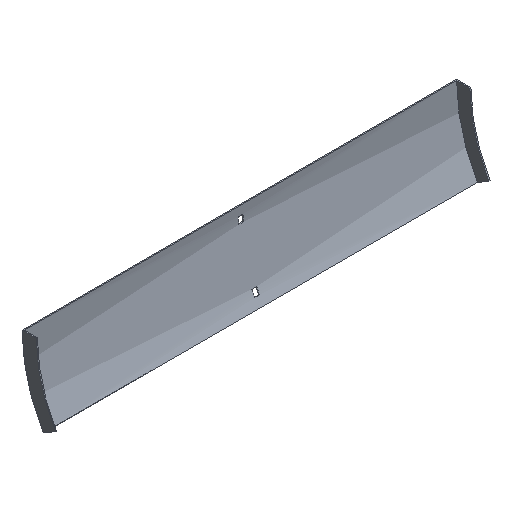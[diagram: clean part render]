
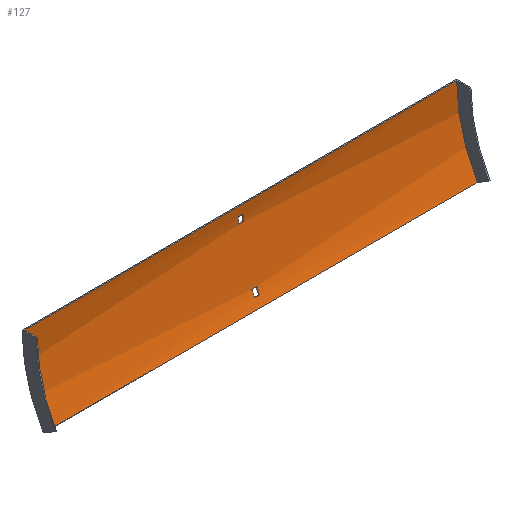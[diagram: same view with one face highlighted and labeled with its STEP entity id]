
A CAD part, isometric view. The second image highlights one B-rep face of the part: STEP entity #127.
In plain terms, the highlighted cylindrical face has radius 217.5 mm (diameter 435 mm), a partial arc.
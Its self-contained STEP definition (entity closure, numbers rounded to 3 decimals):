
#11 = FACE_BOUND ( 'NONE', #81, .T. ) ;
#12 = CARTESIAN_POINT ( 'NONE',  ( 303.5, -2.516, -21. ) ) ;
#18 = DIRECTION ( 'NONE',  ( 1., 0., 0. ) ) ;
#33 = FACE_OUTER_BOUND ( 'NONE', #307, .T. ) ;
#47 = ORIENTED_EDGE ( 'NONE', *, *, #195, .T. ) ;
#51 = AXIS2_PLACEMENT_3D ( 'NONE', #426, #562, #385 ) ;
#53 = AXIS2_PLACEMENT_3D ( 'NONE', #398, #311, #169 ) ;
#61 = CARTESIAN_POINT ( 'NONE',  ( 3.25, -1.831, -12. ) ) ;
#72 = EDGE_CURVE ( 'NONE', #533, #259, #322, .T. ) ;
#77 = CARTESIAN_POINT ( 'NONE',  ( -3.25, -2.516, -21. ) ) ;
#80 = CARTESIAN_POINT ( 'NONE',  ( 302., -1.5, 0. ) ) ;
#81 = EDGE_LOOP ( 'NONE', ( #445, #235, #324, #47 ) ) ;
#85 = CARTESIAN_POINT ( 'NONE',  ( 303.5, -24.926, -98.192 ) ) ;
#89 = LINE ( 'NONE', #85, #144 ) ;
#93 = ORIENTED_EDGE ( 'NONE', *, *, #491, .F. ) ;
#94 = CIRCLE ( 'NONE', #356, 217.5 ) ;
#107 = DIRECTION ( 'NONE',  ( 1., 0., 0. ) ) ;
#114 = CARTESIAN_POINT ( 'NONE',  ( -3.25, -24.926, -98.192 ) ) ;
#127 = ADVANCED_FACE ( 'NONE', ( #590, #33, #11 ), #288, .F. ) ;
#144 = VECTOR ( 'NONE', #508, 1000. ) ;
#159 = DIRECTION ( 'NONE',  ( 0., 0., -1. ) ) ;
#162 = LINE ( 'NONE', #407, #476 ) ;
#169 = DIRECTION ( 'NONE',  ( 0., 0., 1. ) ) ;
#171 = CARTESIAN_POINT ( 'NONE',  ( 302., -30.639, -108.75 ) ) ;
#174 = VECTOR ( 'NONE', #18, 1000. ) ;
#192 = VECTOR ( 'NONE', #518, 1000. ) ;
#195 = EDGE_CURVE ( 'NONE', #603, #460, #212, .T. ) ;
#201 = CARTESIAN_POINT ( 'NONE',  ( 3.25, -21.02, -90.055 ) ) ;
#202 = CARTESIAN_POINT ( 'NONE',  ( 303.5, -21.02, -90.055 ) ) ;
#205 = VERTEX_POINT ( 'NONE', #61 ) ;
#212 = CIRCLE ( 'NONE', #51, 217.5 ) ;
#219 = DIRECTION ( 'NONE',  ( -1., 0., 0. ) ) ;
#235 = ORIENTED_EDGE ( 'NONE', *, *, #343, .T. ) ;
#238 = EDGE_CURVE ( 'NONE', #286, #423, #94, .T. ) ;
#241 = ORIENTED_EDGE ( 'NONE', *, *, #238, .F. ) ;
#243 = CARTESIAN_POINT ( 'NONE',  ( -302., -219., 0. ) ) ;
#250 = DIRECTION ( 'NONE',  ( -1., 0., 0. ) ) ;
#256 = CARTESIAN_POINT ( 'NONE',  ( -302., -1.5, 0. ) ) ;
#259 = VERTEX_POINT ( 'NONE', #77 ) ;
#260 = AXIS2_PLACEMENT_3D ( 'NONE', #331, #515, #470 ) ;
#266 = LINE ( 'NONE', #80, #335 ) ;
#268 = CARTESIAN_POINT ( 'NONE',  ( -3.25, -21.02, -90.055 ) ) ;
#279 = CIRCLE ( 'NONE', #53, 217.5 ) ;
#283 = EDGE_CURVE ( 'NONE', #581, #205, #438, .T. ) ;
#285 = CARTESIAN_POINT ( 'NONE',  ( 3.25, -219., 0. ) ) ;
#286 = VERTEX_POINT ( 'NONE', #344 ) ;
#288 = CYLINDRICAL_SURFACE ( 'NONE', #507, 217.5 ) ;
#293 = EDGE_CURVE ( 'NONE', #259, #581, #389, .T. ) ;
#297 = CARTESIAN_POINT ( 'NONE',  ( -3.25, -219., 0. ) ) ;
#298 = ORIENTED_EDGE ( 'NONE', *, *, #293, .F. ) ;
#303 = AXIS2_PLACEMENT_3D ( 'NONE', #285, #107, #571 ) ;
#307 = EDGE_LOOP ( 'NONE', ( #241, #93, #442, #566 ) ) ;
#308 = EDGE_CURVE ( 'NONE', #552, #603, #526, .T. ) ;
#311 = DIRECTION ( 'NONE',  ( 1., 0., 0. ) ) ;
#322 = CIRCLE ( 'NONE', #260, 217.5 ) ;
#323 = VECTOR ( 'NONE', #441, 1000. ) ;
#324 = ORIENTED_EDGE ( 'NONE', *, *, #308, .T. ) ;
#326 = VERTEX_POINT ( 'NONE', #379 ) ;
#331 = CARTESIAN_POINT ( 'NONE',  ( -3.25, -219., 0. ) ) ;
#334 = CARTESIAN_POINT ( 'NONE',  ( 3.25, -2.516, -21. ) ) ;
#335 = VECTOR ( 'NONE', #455, 1000. ) ;
#337 = CARTESIAN_POINT ( 'NONE',  ( 303.5, -219., 0. ) ) ;
#342 = VERTEX_POINT ( 'NONE', #479 ) ;
#343 = EDGE_CURVE ( 'NONE', #387, #552, #439, .T. ) ;
#344 = CARTESIAN_POINT ( 'NONE',  ( -302., -30.639, -108.75 ) ) ;
#352 = ORIENTED_EDGE ( 'NONE', *, *, #447, .F. ) ;
#356 = AXIS2_PLACEMENT_3D ( 'NONE', #243, #431, #361 ) ;
#361 = DIRECTION ( 'NONE',  ( 0., 0., 1. ) ) ;
#363 = CARTESIAN_POINT ( 'NONE',  ( 3.25, -24.926, -98.192 ) ) ;
#379 = CARTESIAN_POINT ( 'NONE',  ( 302., -30.639, -108.75 ) ) ;
#385 = DIRECTION ( 'NONE',  ( 0., 0., 1. ) ) ;
#387 = VERTEX_POINT ( 'NONE', #114 ) ;
#389 = LINE ( 'NONE', #12, #174 ) ;
#392 = AXIS2_PLACEMENT_3D ( 'NONE', #297, #568, #159 ) ;
#398 = CARTESIAN_POINT ( 'NONE',  ( 302., -219., 0. ) ) ;
#399 = EDGE_LOOP ( 'NONE', ( #607, #352, #503, #298 ) ) ;
#407 = CARTESIAN_POINT ( 'NONE',  ( 303.5, -1.831, -12. ) ) ;
#409 = CARTESIAN_POINT ( 'NONE',  ( -3.25, -1.831, -12. ) ) ;
#423 = VERTEX_POINT ( 'NONE', #256 ) ;
#426 = CARTESIAN_POINT ( 'NONE',  ( 3.25, -219., 0. ) ) ;
#431 = DIRECTION ( 'NONE',  ( 1., 0., 0. ) ) ;
#438 = CIRCLE ( 'NONE', #303, 217.5 ) ;
#439 = CIRCLE ( 'NONE', #392, 217.5 ) ;
#441 = DIRECTION ( 'NONE',  ( -1., 0., 0. ) ) ;
#442 = ORIENTED_EDGE ( 'NONE', *, *, #502, .T. ) ;
#445 = ORIENTED_EDGE ( 'NONE', *, *, #546, .T. ) ;
#447 = EDGE_CURVE ( 'NONE', #205, #533, #162, .T. ) ;
#455 = DIRECTION ( 'NONE',  ( -1., 0., 0. ) ) ;
#460 = VERTEX_POINT ( 'NONE', #363 ) ;
#470 = DIRECTION ( 'NONE',  ( 0., 0., 1. ) ) ;
#476 = VECTOR ( 'NONE', #219, 1000. ) ;
#479 = CARTESIAN_POINT ( 'NONE',  ( 302., -1.5, 0. ) ) ;
#491 = EDGE_CURVE ( 'NONE', #326, #286, #588, .T. ) ;
#502 = EDGE_CURVE ( 'NONE', #326, #342, #279, .T. ) ;
#503 = ORIENTED_EDGE ( 'NONE', *, *, #283, .F. ) ;
#507 = AXIS2_PLACEMENT_3D ( 'NONE', #337, #250, #570 ) ;
#508 = DIRECTION ( 'NONE',  ( -1., 0., 0. ) ) ;
#515 = DIRECTION ( 'NONE',  ( -1., 0., 0. ) ) ;
#518 = DIRECTION ( 'NONE',  ( 1., 0., 0. ) ) ;
#526 = LINE ( 'NONE', #202, #192 ) ;
#530 = EDGE_CURVE ( 'NONE', #342, #423, #266, .T. ) ;
#533 = VERTEX_POINT ( 'NONE', #409 ) ;
#546 = EDGE_CURVE ( 'NONE', #460, #387, #89, .T. ) ;
#552 = VERTEX_POINT ( 'NONE', #268 ) ;
#562 = DIRECTION ( 'NONE',  ( -1., 0., 0. ) ) ;
#566 = ORIENTED_EDGE ( 'NONE', *, *, #530, .T. ) ;
#568 = DIRECTION ( 'NONE',  ( 1., 0., 0. ) ) ;
#570 = DIRECTION ( 'NONE',  ( 0., 0., 1. ) ) ;
#571 = DIRECTION ( 'NONE',  ( 0., 0., -1. ) ) ;
#581 = VERTEX_POINT ( 'NONE', #334 ) ;
#588 = LINE ( 'NONE', #171, #323 ) ;
#590 = FACE_BOUND ( 'NONE', #399, .T. ) ;
#603 = VERTEX_POINT ( 'NONE', #201 ) ;
#607 = ORIENTED_EDGE ( 'NONE', *, *, #72, .F. ) ;
